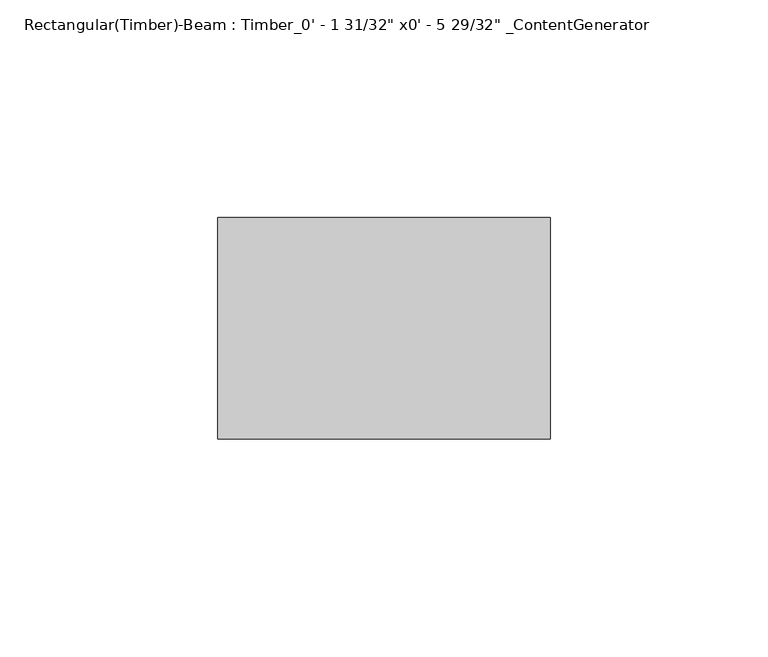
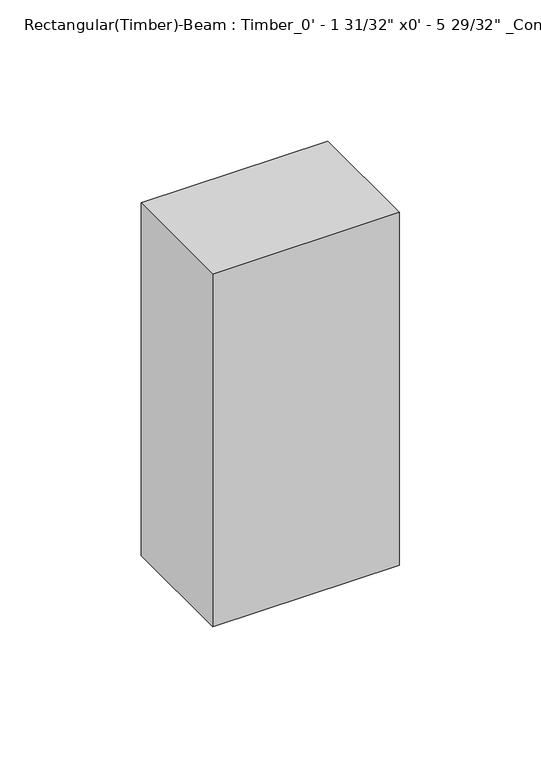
"""IFC4 building model written with IfcOpenShell, lengths in millimetres: beam geometry."""

from ifc_helpers import new_model, si_unit, frame, origin, place, context, project, spatial, polyline, outline, extrude, source, transform, mapped, element, save


def beam_a2a0555c(model_context):
    return source(origin(), model_context, "Body", "SweptSolid", [
        extrude(outline(polyline([(50.8049994, 25.4), (50.8049994, -25.4), (-25.405, -25.4), (-25.405, 25.4), (50.8049994, 25.4)])), frame((0.0, 0.0, -76.2), z_axis=(0.0, 0.0, 1.0), x_axis=(1.0, 0.0, 0.0)), (0.0, 0.0, 1.0), 152.4),
    ])


if __name__ == "__main__":
    model = new_model("IFC4")
    model_context = context("Model", 3, world=origin())
    ifc_project = project(units=[si_unit("LENGTHUNIT", "METRE", prefix="MILLI")], contexts=[model_context])
    site = spatial("IfcSite", under=ifc_project)
    building = spatial("IfcBuilding", under=site)
    placement = place(None, origin())
    beam_shape = beam_a2a0555c(model_context)
    element("IfcBeam", 1, ObjectType="Rectangular(Timber)-Beam : Timber_0' - 1 31/32\" x0' - 5 29/32\" _ContentGenerator", at=placement, inside=building, context=model_context, shape_type="MappedRepresentation", body=[
        mapped(beam_shape, transform((0.0, 0.0, 0.0), x_axis=(1.0, 0.0, 0.0), y_axis=(0.0, 1.0, 0.0), z_axis=(0.0, 0.0, 1.0))),
    ])
    save(model, "model.ifc")
